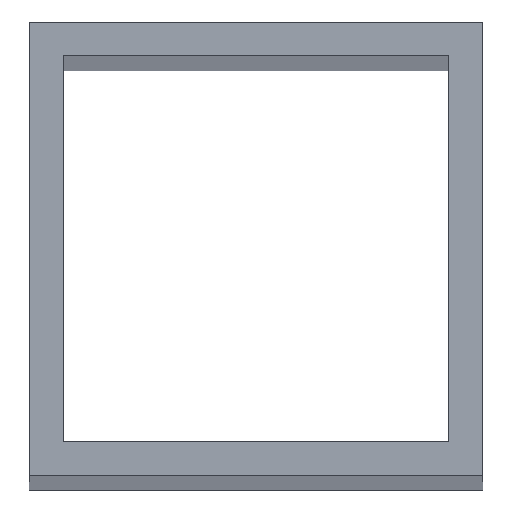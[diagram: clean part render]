
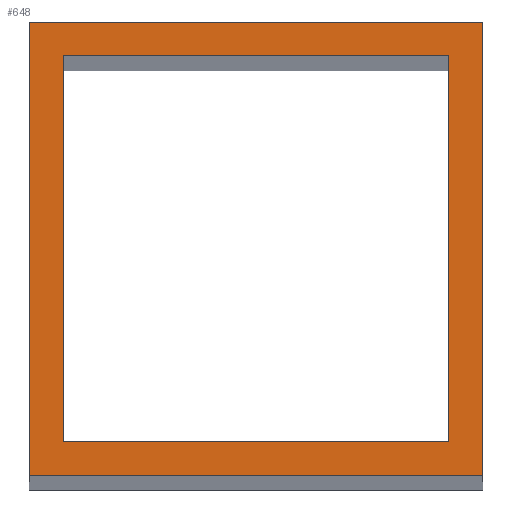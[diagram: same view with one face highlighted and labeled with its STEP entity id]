
A CAD part, top view. The second image highlights one B-rep face of the part: STEP entity #648.
In plain terms, the highlighted planar face has unit normal (0, 0, 1).
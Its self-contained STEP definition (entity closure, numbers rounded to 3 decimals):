
#24 = VERTEX_POINT('',#25);
#25 = CARTESIAN_POINT('',(-20.,-20.,750.));
#32 = PLANE('',#33);
#33 = AXIS2_PLACEMENT_3D('',#34,#35,#36);
#34 = CARTESIAN_POINT('',(-20.,-20.,0.));
#35 = DIRECTION('',(0.,1.,0.));
#36 = DIRECTION('',(1.,0.,0.));
#44 = PLANE('',#45);
#45 = AXIS2_PLACEMENT_3D('',#46,#47,#48);
#46 = CARTESIAN_POINT('',(-20.,20.,0.));
#47 = DIRECTION('',(1.,0.,-0.));
#48 = DIRECTION('',(0.,-1.,0.));
#56 = EDGE_CURVE('',#24,#57,#59,.T.);
#57 = VERTEX_POINT('',#58);
#58 = CARTESIAN_POINT('',(20.,-20.,750.));
#59 = SURFACE_CURVE('',#60,(#64,#71),.PCURVE_S1.);
#60 = LINE('',#61,#62);
#61 = CARTESIAN_POINT('',(-20.,-20.,750.));
#62 = VECTOR('',#63,1.);
#63 = DIRECTION('',(1.,0.,0.));
#64 = PCURVE('',#32,#65);
#65 = DEFINITIONAL_REPRESENTATION('',(#66),#70);
#66 = LINE('',#67,#68);
#67 = CARTESIAN_POINT('',(0.,-750.));
#68 = VECTOR('',#69,1.);
#69 = DIRECTION('',(1.,0.));
#70 = ( GEOMETRIC_REPRESENTATION_CONTEXT(2) 
PARAMETRIC_REPRESENTATION_CONTEXT() REPRESENTATION_CONTEXT('2D SPACE',''
  ) );
#71 = PCURVE('',#72,#77);
#72 = PLANE('',#73);
#73 = AXIS2_PLACEMENT_3D('',#74,#75,#76);
#74 = CARTESIAN_POINT('',(0.,0.,750.));
#75 = DIRECTION('',(0.,0.,1.));
#76 = DIRECTION('',(1.,0.,-0.));
#77 = DEFINITIONAL_REPRESENTATION('',(#78),#82);
#78 = LINE('',#79,#80);
#79 = CARTESIAN_POINT('',(-20.,-20.));
#80 = VECTOR('',#81,1.);
#81 = DIRECTION('',(1.,0.));
#82 = ( GEOMETRIC_REPRESENTATION_CONTEXT(2) 
PARAMETRIC_REPRESENTATION_CONTEXT() REPRESENTATION_CONTEXT('2D SPACE',''
  ) );
#100 = PLANE('',#101);
#101 = AXIS2_PLACEMENT_3D('',#102,#103,#104);
#102 = CARTESIAN_POINT('',(20.,-20.,0.));
#103 = DIRECTION('',(-1.,0.,0.));
#104 = DIRECTION('',(0.,1.,0.));
#142 = EDGE_CURVE('',#57,#143,#145,.T.);
#143 = VERTEX_POINT('',#144);
#144 = CARTESIAN_POINT('',(20.,20.,750.));
#145 = SURFACE_CURVE('',#146,(#150,#157),.PCURVE_S1.);
#146 = LINE('',#147,#148);
#147 = CARTESIAN_POINT('',(20.,-20.,750.));
#148 = VECTOR('',#149,1.);
#149 = DIRECTION('',(0.,1.,0.));
#150 = PCURVE('',#100,#151);
#151 = DEFINITIONAL_REPRESENTATION('',(#152),#156);
#152 = LINE('',#153,#154);
#153 = CARTESIAN_POINT('',(0.,-750.));
#154 = VECTOR('',#155,1.);
#155 = DIRECTION('',(1.,0.));
#156 = ( GEOMETRIC_REPRESENTATION_CONTEXT(2) 
PARAMETRIC_REPRESENTATION_CONTEXT() REPRESENTATION_CONTEXT('2D SPACE',''
  ) );
#157 = PCURVE('',#72,#158);
#158 = DEFINITIONAL_REPRESENTATION('',(#159),#163);
#159 = LINE('',#160,#161);
#160 = CARTESIAN_POINT('',(20.,-20.));
#161 = VECTOR('',#162,1.);
#162 = DIRECTION('',(0.,1.));
#163 = ( GEOMETRIC_REPRESENTATION_CONTEXT(2) 
PARAMETRIC_REPRESENTATION_CONTEXT() REPRESENTATION_CONTEXT('2D SPACE',''
  ) );
#181 = PLANE('',#182);
#182 = AXIS2_PLACEMENT_3D('',#183,#184,#185);
#183 = CARTESIAN_POINT('',(20.,20.,0.));
#184 = DIRECTION('',(0.,-1.,0.));
#185 = DIRECTION('',(-1.,0.,0.));
#218 = EDGE_CURVE('',#143,#219,#221,.T.);
#219 = VERTEX_POINT('',#220);
#220 = CARTESIAN_POINT('',(-20.,20.,750.));
#221 = SURFACE_CURVE('',#222,(#226,#233),.PCURVE_S1.);
#222 = LINE('',#223,#224);
#223 = CARTESIAN_POINT('',(20.,20.,750.));
#224 = VECTOR('',#225,1.);
#225 = DIRECTION('',(-1.,0.,0.));
#226 = PCURVE('',#181,#227);
#227 = DEFINITIONAL_REPRESENTATION('',(#228),#232);
#228 = LINE('',#229,#230);
#229 = CARTESIAN_POINT('',(0.,-750.));
#230 = VECTOR('',#231,1.);
#231 = DIRECTION('',(1.,0.));
#232 = ( GEOMETRIC_REPRESENTATION_CONTEXT(2) 
PARAMETRIC_REPRESENTATION_CONTEXT() REPRESENTATION_CONTEXT('2D SPACE',''
  ) );
#233 = PCURVE('',#72,#234);
#234 = DEFINITIONAL_REPRESENTATION('',(#235),#239);
#235 = LINE('',#236,#237);
#236 = CARTESIAN_POINT('',(20.,20.));
#237 = VECTOR('',#238,1.);
#238 = DIRECTION('',(-1.,0.));
#239 = ( GEOMETRIC_REPRESENTATION_CONTEXT(2) 
PARAMETRIC_REPRESENTATION_CONTEXT() REPRESENTATION_CONTEXT('2D SPACE',''
  ) );
#289 = EDGE_CURVE('',#219,#24,#290,.T.);
#290 = SURFACE_CURVE('',#291,(#295,#302),.PCURVE_S1.);
#291 = LINE('',#292,#293);
#292 = CARTESIAN_POINT('',(-20.,20.,750.));
#293 = VECTOR('',#294,1.);
#294 = DIRECTION('',(0.,-1.,0.));
#295 = PCURVE('',#44,#296);
#296 = DEFINITIONAL_REPRESENTATION('',(#297),#301);
#297 = LINE('',#298,#299);
#298 = CARTESIAN_POINT('',(0.,-750.));
#299 = VECTOR('',#300,1.);
#300 = DIRECTION('',(1.,0.));
#301 = ( GEOMETRIC_REPRESENTATION_CONTEXT(2) 
PARAMETRIC_REPRESENTATION_CONTEXT() REPRESENTATION_CONTEXT('2D SPACE',''
  ) );
#302 = PCURVE('',#72,#303);
#303 = DEFINITIONAL_REPRESENTATION('',(#304),#308);
#304 = LINE('',#305,#306);
#305 = CARTESIAN_POINT('',(-20.,20.));
#306 = VECTOR('',#307,1.);
#307 = DIRECTION('',(0.,-1.));
#308 = ( GEOMETRIC_REPRESENTATION_CONTEXT(2) 
PARAMETRIC_REPRESENTATION_CONTEXT() REPRESENTATION_CONTEXT('2D SPACE',''
  ) );
#338 = VERTEX_POINT('',#339);
#339 = CARTESIAN_POINT('',(-17.,-17.,750.));
#346 = PLANE('',#347);
#347 = AXIS2_PLACEMENT_3D('',#348,#349,#350);
#348 = CARTESIAN_POINT('',(-17.,-17.,0.));
#349 = DIRECTION('',(0.,1.,0.));
#350 = DIRECTION('',(1.,0.,0.));
#358 = PLANE('',#359);
#359 = AXIS2_PLACEMENT_3D('',#360,#361,#362);
#360 = CARTESIAN_POINT('',(-17.,17.,0.));
#361 = DIRECTION('',(1.,0.,-0.));
#362 = DIRECTION('',(0.,-1.,0.));
#370 = EDGE_CURVE('',#338,#371,#373,.T.);
#371 = VERTEX_POINT('',#372);
#372 = CARTESIAN_POINT('',(17.,-17.,750.));
#373 = SURFACE_CURVE('',#374,(#378,#385),.PCURVE_S1.);
#374 = LINE('',#375,#376);
#375 = CARTESIAN_POINT('',(-17.,-17.,750.));
#376 = VECTOR('',#377,1.);
#377 = DIRECTION('',(1.,0.,0.));
#378 = PCURVE('',#346,#379);
#379 = DEFINITIONAL_REPRESENTATION('',(#380),#384);
#380 = LINE('',#381,#382);
#381 = CARTESIAN_POINT('',(0.,-750.));
#382 = VECTOR('',#383,1.);
#383 = DIRECTION('',(1.,0.));
#384 = ( GEOMETRIC_REPRESENTATION_CONTEXT(2) 
PARAMETRIC_REPRESENTATION_CONTEXT() REPRESENTATION_CONTEXT('2D SPACE',''
  ) );
#385 = PCURVE('',#72,#386);
#386 = DEFINITIONAL_REPRESENTATION('',(#387),#391);
#387 = LINE('',#388,#389);
#388 = CARTESIAN_POINT('',(-17.,-17.));
#389 = VECTOR('',#390,1.);
#390 = DIRECTION('',(1.,0.));
#391 = ( GEOMETRIC_REPRESENTATION_CONTEXT(2) 
PARAMETRIC_REPRESENTATION_CONTEXT() REPRESENTATION_CONTEXT('2D SPACE',''
  ) );
#409 = PLANE('',#410);
#410 = AXIS2_PLACEMENT_3D('',#411,#412,#413);
#411 = CARTESIAN_POINT('',(17.,-17.,0.));
#412 = DIRECTION('',(-1.,0.,0.));
#413 = DIRECTION('',(0.,1.,0.));
#446 = EDGE_CURVE('',#371,#447,#449,.T.);
#447 = VERTEX_POINT('',#448);
#448 = CARTESIAN_POINT('',(17.,17.,750.));
#449 = SURFACE_CURVE('',#450,(#454,#461),.PCURVE_S1.);
#450 = LINE('',#451,#452);
#451 = CARTESIAN_POINT('',(17.,-17.,750.));
#452 = VECTOR('',#453,1.);
#453 = DIRECTION('',(0.,1.,0.));
#454 = PCURVE('',#409,#455);
#455 = DEFINITIONAL_REPRESENTATION('',(#456),#460);
#456 = LINE('',#457,#458);
#457 = CARTESIAN_POINT('',(0.,-750.));
#458 = VECTOR('',#459,1.);
#459 = DIRECTION('',(1.,0.));
#460 = ( GEOMETRIC_REPRESENTATION_CONTEXT(2) 
PARAMETRIC_REPRESENTATION_CONTEXT() REPRESENTATION_CONTEXT('2D SPACE',''
  ) );
#461 = PCURVE('',#72,#462);
#462 = DEFINITIONAL_REPRESENTATION('',(#463),#467);
#463 = LINE('',#464,#465);
#464 = CARTESIAN_POINT('',(17.,-17.));
#465 = VECTOR('',#466,1.);
#466 = DIRECTION('',(0.,1.));
#467 = ( GEOMETRIC_REPRESENTATION_CONTEXT(2) 
PARAMETRIC_REPRESENTATION_CONTEXT() REPRESENTATION_CONTEXT('2D SPACE',''
  ) );
#485 = PLANE('',#486);
#486 = AXIS2_PLACEMENT_3D('',#487,#488,#489);
#487 = CARTESIAN_POINT('',(17.,17.,0.));
#488 = DIRECTION('',(0.,-1.,0.));
#489 = DIRECTION('',(-1.,0.,0.));
#522 = EDGE_CURVE('',#447,#523,#525,.T.);
#523 = VERTEX_POINT('',#524);
#524 = CARTESIAN_POINT('',(-17.,17.,750.));
#525 = SURFACE_CURVE('',#526,(#530,#537),.PCURVE_S1.);
#526 = LINE('',#527,#528);
#527 = CARTESIAN_POINT('',(17.,17.,750.));
#528 = VECTOR('',#529,1.);
#529 = DIRECTION('',(-1.,0.,0.));
#530 = PCURVE('',#485,#531);
#531 = DEFINITIONAL_REPRESENTATION('',(#532),#536);
#532 = LINE('',#533,#534);
#533 = CARTESIAN_POINT('',(0.,-750.));
#534 = VECTOR('',#535,1.);
#535 = DIRECTION('',(1.,0.));
#536 = ( GEOMETRIC_REPRESENTATION_CONTEXT(2) 
PARAMETRIC_REPRESENTATION_CONTEXT() REPRESENTATION_CONTEXT('2D SPACE',''
  ) );
#537 = PCURVE('',#72,#538);
#538 = DEFINITIONAL_REPRESENTATION('',(#539),#543);
#539 = LINE('',#540,#541);
#540 = CARTESIAN_POINT('',(17.,17.));
#541 = VECTOR('',#542,1.);
#542 = DIRECTION('',(-1.,0.));
#543 = ( GEOMETRIC_REPRESENTATION_CONTEXT(2) 
PARAMETRIC_REPRESENTATION_CONTEXT() REPRESENTATION_CONTEXT('2D SPACE',''
  ) );
#593 = EDGE_CURVE('',#523,#338,#594,.T.);
#594 = SURFACE_CURVE('',#595,(#599,#606),.PCURVE_S1.);
#595 = LINE('',#596,#597);
#596 = CARTESIAN_POINT('',(-17.,17.,750.));
#597 = VECTOR('',#598,1.);
#598 = DIRECTION('',(0.,-1.,0.));
#599 = PCURVE('',#358,#600);
#600 = DEFINITIONAL_REPRESENTATION('',(#601),#605);
#601 = LINE('',#602,#603);
#602 = CARTESIAN_POINT('',(0.,-750.));
#603 = VECTOR('',#604,1.);
#604 = DIRECTION('',(1.,0.));
#605 = ( GEOMETRIC_REPRESENTATION_CONTEXT(2) 
PARAMETRIC_REPRESENTATION_CONTEXT() REPRESENTATION_CONTEXT('2D SPACE',''
  ) );
#606 = PCURVE('',#72,#607);
#607 = DEFINITIONAL_REPRESENTATION('',(#608),#612);
#608 = LINE('',#609,#610);
#609 = CARTESIAN_POINT('',(-17.,17.));
#610 = VECTOR('',#611,1.);
#611 = DIRECTION('',(0.,-1.));
#612 = ( GEOMETRIC_REPRESENTATION_CONTEXT(2) 
PARAMETRIC_REPRESENTATION_CONTEXT() REPRESENTATION_CONTEXT('2D SPACE',''
  ) );
#648 = ADVANCED_FACE('',(#649,#655),#72,.T.);
#649 = FACE_BOUND('',#650,.T.);
#650 = EDGE_LOOP('',(#651,#652,#653,#654));
#651 = ORIENTED_EDGE('',*,*,#56,.T.);
#652 = ORIENTED_EDGE('',*,*,#142,.T.);
#653 = ORIENTED_EDGE('',*,*,#218,.T.);
#654 = ORIENTED_EDGE('',*,*,#289,.T.);
#655 = FACE_BOUND('',#656,.F.);
#656 = EDGE_LOOP('',(#657,#658,#659,#660));
#657 = ORIENTED_EDGE('',*,*,#370,.T.);
#658 = ORIENTED_EDGE('',*,*,#446,.T.);
#659 = ORIENTED_EDGE('',*,*,#522,.T.);
#660 = ORIENTED_EDGE('',*,*,#593,.T.);
